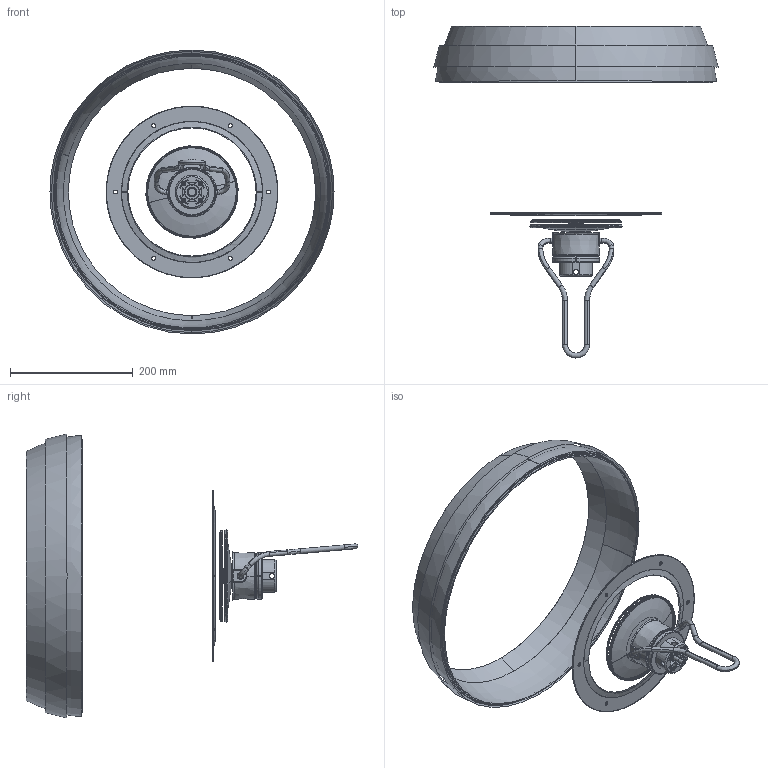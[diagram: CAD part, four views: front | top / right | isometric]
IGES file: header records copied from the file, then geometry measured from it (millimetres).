
Start section: SolidWorks IGES file using analytic representation for surfaces
Bounding box: 463.51 x 541.42 x 463.26 mm (x, y, z)
Surface area: 971879.3 mm2 (no closed solid volume)
Topology: 0 solids, 0 shells, 885 faces, 11405 edges, 11369 vertices
Faces by surface type: revolution 511, bspline 374
